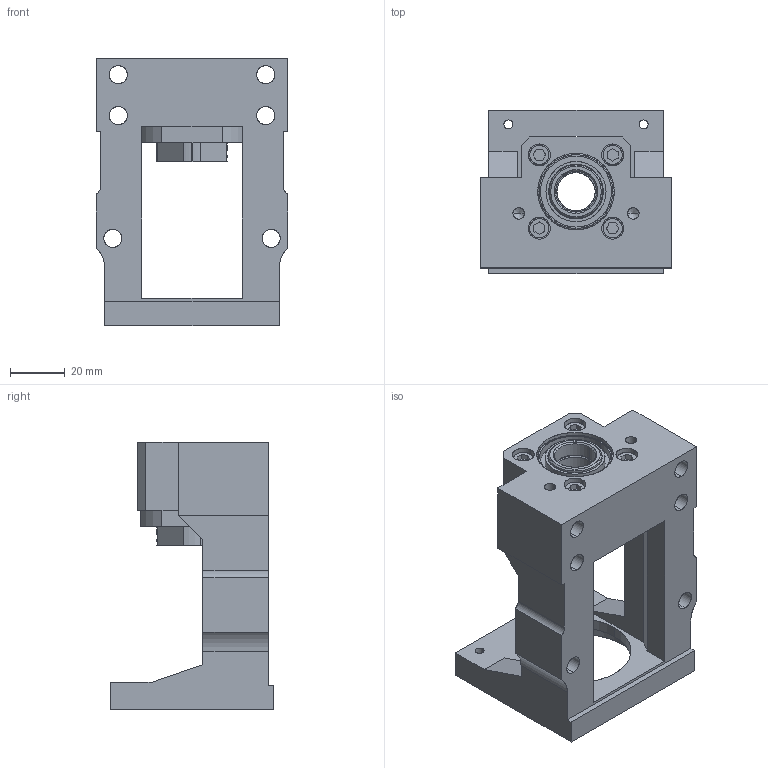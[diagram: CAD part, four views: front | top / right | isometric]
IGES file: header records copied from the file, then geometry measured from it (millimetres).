
Start section: SolidWorks IGES file using analytic representation for surfaces
Global section: file name: C:\Users\117\Desktop\MBCB15-DP.IGS; native system: SolidWorks 2018; preprocessor: SolidWorks 2018; author: 117; date: 230112.083437; units: millimetre
Bounding box: 70 x 60 x 98 mm (x, y, z)
Surface area: 60525.5 mm2 (no closed solid volume)
Topology: 0 solids, 0 shells, 550 faces, 10312 edges, 10232 vertices
Faces by surface type: revolution 318, bspline 232
